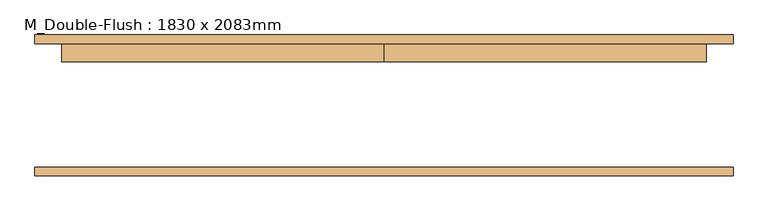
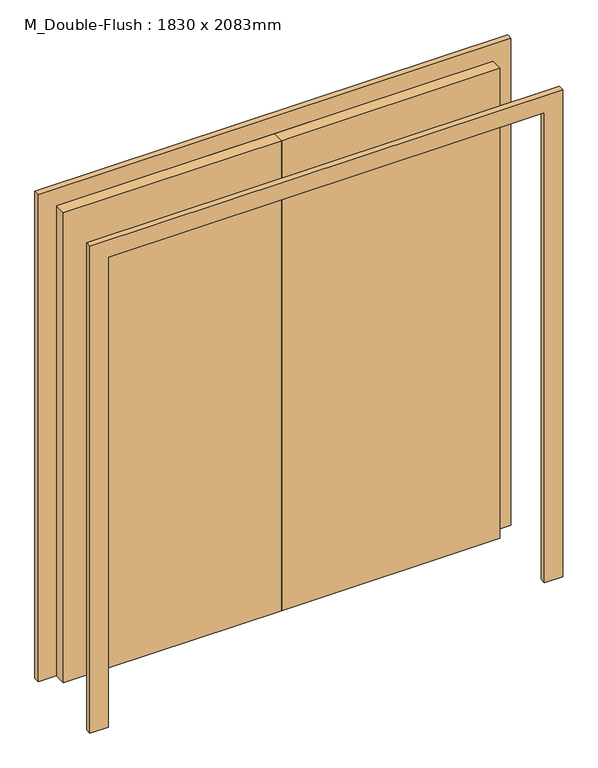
"""IFC4 building model written with IfcOpenShell, lengths in millimetres: door geometry, M_Double-Flush : 1830 x 2083mm."""

from ifc_helpers import new_model, si_unit, frame, origin, origin_with_axes, place, context, project, spatial, polyline, outline, extrude, source, transform, mapped, element, save


def m_double_flush_1830_x_2083mm_6dd157be(model_context):
    return source(origin(), model_context, "Body", "SweptSolid", [
        extrude(outline(polyline([(0.0, 175.0), (915.0, 175.0), (915.0, 124.0), (0.0, 124.0), (0.0, 175.0)])), origin_with_axes(), (0.0, 0.0, 1.0), 2083.0),
        extrude(outline(polyline([(-915.0, 175.0), (0.0, 175.0), (0.0, 124.0), (-915.0, 124.0), (-915.0, 175.0)])), origin_with_axes(), (0.0, 0.0, 1.0), 2083.0),
        extrude(outline(polyline([(2083.0, -915.0), (2083.0, 915.0), (0.0, 915.0), (0.0, 991.0), (2159.0, 991.0), (2159.0, -991.0), (0.0, -991.0), (0.0, -915.0), (2083.0, -915.0)])), frame((0.0, -200.0, 0.0), z_axis=(0.0, 1.0, 0.0), x_axis=(0.0, 0.0, 1.0)), (0.0, 0.0, 1.0), 25.0),
        extrude(outline(polyline([(2083.0, -915.0), (2083.0, 915.0), (0.0, 915.0), (0.0, 991.0), (2159.0, 991.0), (2159.0, -991.0), (0.0, -991.0), (0.0, -915.0), (2083.0, -915.0)])), frame((0.0, 175.0, 0.0), z_axis=(0.0, 1.0, 0.0), x_axis=(0.0, 0.0, 1.0)), (0.0, 0.0, 1.0), 25.0),
    ])


if __name__ == "__main__":
    model = new_model("IFC4")
    model_context = context("Model", 3, world=origin())
    ifc_project = project(units=[si_unit("LENGTHUNIT", "METRE", prefix="MILLI")], contexts=[model_context])
    site = spatial("IfcSite", under=ifc_project)
    building = spatial("IfcBuilding", under=site)
    placement = place(None, origin())
    m_double_flush_1830_x_2083mm_shape = m_double_flush_1830_x_2083mm_6dd157be(model_context)
    element("IfcDoor", 1, ObjectType="M_Double-Flush : 1830 x 2083mm", at=placement, inside=building, context=model_context, shape_type="MappedRepresentation", body=[
        mapped(m_double_flush_1830_x_2083mm_shape, transform((0.0, 0.0, 0.0), x_axis=(1.0, 0.0, 0.0), y_axis=(0.0, 1.0, 0.0), z_axis=(0.0, 0.0, 1.0))),
    ])
    save(model, "model.ifc")
